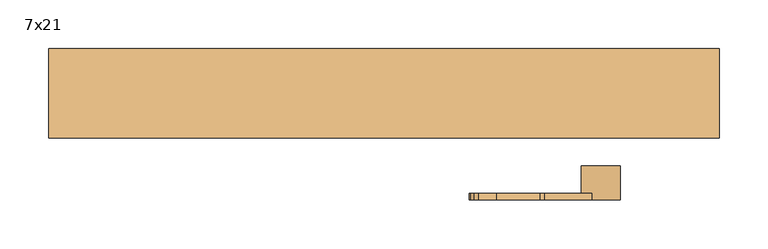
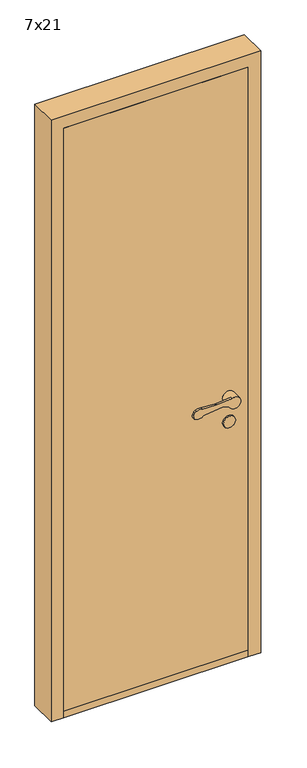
"""IFC4 building model written with IfcOpenShell, lengths in millimetres: door geometry, Innerdør Slett (Diplomat) : 7x21."""

from ifc_helpers import new_model, si_unit, point, frame, frame_2d, origin, origin_with_axes, place, context, project, spatial, polyline, circle_curve, trimmed, segment, composite_curve, outline, extrude, source, transform, mapped, element, save
from ifc_brep_helpers import plane_surface, cylinder_surface, revolved_surface, advanced_brep


def door_7x21_1ed85bad(model_context):
    return source(origin(), model_context, "Body", "SolidModel", [
        advanced_brep(
        [(243.9611305, 49.0, 949.1175955), (238.8520664, 49.0, 949.9496913), (176.0476109, 49.0, 943.6260011), (146.721536, 49.0, 938.7393398), (141.8691983, 49.0, 951.8913379), (145.505009, 49.0, 959.9624074), (150.3175669, 49.0, 964.8810513), (168.8963175, 49.0, 967.2639242), (213.6202158, 49.0, 964.1804415), (218.6891233, 49.0, 964.26032), (267.2687793, 49.0, 969.1517356), (296.379633, 49.0, 951.3474568), (258.3841161, 49.0, 942.6204086), (218.6891233, 41.8915284, 964.26032), (213.6202158, 41.8915284, 964.1804415), (168.8963175, 41.8915284, 967.2639242), (150.3175669, 41.8915284, 964.8810513), (145.505009, 41.8915284, 959.9624074), (141.8691983, 41.8915284, 951.8913379), (146.721536, 41.8915284, 938.7393398), (176.0476109, 41.8915284, 943.6260011), (238.8520664, 41.8915284, 949.9496913), (243.9611305, 41.8915284, 949.1175955), (258.3841161, 41.8915284, 942.6204086), (256.379633, 41.8915284, 951.3474568), (267.2687793, 41.8915284, 969.1517356), (296.379633, 14.0, 951.3474568), (256.379633, 14.0, 951.3474568)],
        [
            (0, 1, circle_curve(frame((239.8538865, 49.0, 940.0), z_axis=(0.0, -1.0, 0.0), x_axis=(-0.9949691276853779, 0.0, -0.10018200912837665)), 10.0)),
            (1, 2),
            (2, 3, circle_curve(frame((157.8569644, 49.0, 962.352734), z_axis=(0.0, 1.0, 0.0), x_axis=(-0.9949691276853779, 0.0, -0.10018200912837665)), 26.1072815)),
            (3, 4, circle_curve(frame((150.9867937, 49.0, 947.7840939), z_axis=(0.0, 1.0, 0.0), x_axis=(-0.9949691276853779, 0.0, -0.10018200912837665)), 10.0)),
            (4, 5),
            (5, 6, circle_curve(frame((154.6226045, 49.0, 955.8551634), z_axis=(0.0, 1.0, 0.0), x_axis=(-0.9949691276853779, 0.0, -0.10018200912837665)), 10.0)),
            (6, 7, circle_curve(frame((163.2326797, 49.0, 937.8033877), z_axis=(0.0, 1.0, 0.0), x_axis=(-0.9949691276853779, 0.0, -0.10018200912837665)), 30.0)),
            (7, 8),
            (8, 9, circle_curve(frame((215.683663, 49.0, 994.1093938), z_axis=(0.0, -1.0, 0.0), x_axis=(-0.9949691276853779, 0.0, -0.10018200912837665)), 30.0)),
            (9, 10),
            (10, 11, circle_curve(frame((276.379633, 49.0, 951.3474568), z_axis=(0.0, 1.0, 0.0), x_axis=(-1.0, 0.0, 0.0)), 20.0)),
            (11, 12, circle_curve(frame((276.379633, 49.0, 951.3474568), z_axis=(0.0, 1.0, 0.0), x_axis=(-1.0, 0.0, 0.0)), 20.0)),
            (12, 0),
            (13, 14, circle_curve(frame((215.683663, 41.8915284, 994.1093938), z_axis=(0.0, 1.0, 0.0), x_axis=(-0.9949691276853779, 0.0, -0.10018200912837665)), 30.0)),
            (14, 15),
            (15, 16, circle_curve(frame((163.2326797, 41.8915284, 937.8033877), z_axis=(0.0, -1.0, 0.0), x_axis=(-0.9949691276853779, 0.0, -0.10018200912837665)), 30.0)),
            (16, 17, circle_curve(frame((154.6226045, 41.8915284, 955.8551634), z_axis=(0.0, -1.0, 0.0), x_axis=(-0.9949691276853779, 0.0, -0.10018200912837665)), 10.0)),
            (17, 18),
            (18, 19, circle_curve(frame((150.9867937, 41.8915284, 947.7840939), z_axis=(0.0, -1.0, 0.0), x_axis=(-0.9949691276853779, 0.0, -0.10018200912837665)), 10.0)),
            (19, 20, circle_curve(frame((157.8569644, 41.8915284, 962.352734), z_axis=(0.0, -1.0, 0.0), x_axis=(-0.9949691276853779, 0.0, -0.10018200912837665)), 26.1072815)),
            (20, 21),
            (21, 22, circle_curve(frame((239.8538865, 41.8915284, 940.0), z_axis=(0.0, 1.0, 0.0), x_axis=(-0.9949691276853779, 0.0, -0.10018200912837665)), 10.0)),
            (22, 23),
            (23, 24, circle_curve(frame((276.379633, 41.8915284, 951.3474568), z_axis=(0.0, 1.0, 0.0), x_axis=(-1.0, 0.0, 0.0)), 20.0)),
            (24, 25, circle_curve(frame((276.379633, 41.8915284, 951.3474568), z_axis=(0.0, 1.0, 0.0), x_axis=(-1.0, 0.0, 0.0)), 20.0)),
            (25, 13),
            (9, 13),
            (25, 10),
            (22, 0),
            (12, 23),
            (21, 1),
            (20, 2),
            (19, 3),
            (18, 4),
            (17, 5),
            (16, 6),
            (15, 7),
            (14, 8),
            (26, 27, circle_curve(frame((276.379633, 14.0, 951.3474568), z_axis=(0.0, -1.0, 0.0), x_axis=(-1.0, 0.0, 0.0)), 20.0)),
            (27, 26, circle_curve(frame((276.379633, 14.0, 951.3474568), z_axis=(0.0, -1.0, 0.0), x_axis=(-1.0, 0.0, 0.0)), 20.0)),
            (27, 24),
            (11, 26),
        ],
        [
            plane_surface(frame((267.6960588, 49.0, 969.1947577), z_axis=(0.0, 1.0000000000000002, 0.0), x_axis=(0.9949691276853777, 0.0, 0.10018200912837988))),
            plane_surface(frame((267.6960588, 41.8915284, 969.1947577), z_axis=(0.0, -1.0000000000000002, 0.0), x_axis=(-0.9949691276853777, 0.0, -0.10018200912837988))),
            plane_surface(frame((218.6891233, 49.0, 964.26032), z_axis=(-0.10018200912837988, 0.0, 0.9949691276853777), x_axis=(0.0, -1.0, 0.0))),
            plane_surface(frame((276.9687366, 49.0, 934.2485115), z_axis=(-0.41072439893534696, 0.0, -0.91175954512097), x_axis=(0.0, -1.0, 0.0))),
            revolved_surface(polyline([(229.90419522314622, 41.8915284, 938.9981799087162), (229.90419522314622, 49.0, 938.9981799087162)]), (239.8538865, 41.8915284, 940.0), (0.0, -1.0, 0.0)),
            plane_surface(frame((238.8520664, 49.0, 949.9496913), z_axis=(0.10018200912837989, 0.0, -0.9949691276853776), x_axis=(0.0, -1.0, 0.0))),
            cylinder_surface(frame((157.8569644, 41.8915284, 962.352734), z_axis=(0.0, 1.0, 0.0), x_axis=(-0.9949691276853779, 0.0, -0.10018200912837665)), 26.1072815),
            cylinder_surface(frame((150.9867937, 41.8915284, 947.7840939), z_axis=(0.0, 1.0, 0.0), x_axis=(-0.9949691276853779, 0.0, -0.10018200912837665)), 10.0),
            plane_surface(frame((141.8691983, 49.0, 951.8913379), z_axis=(-0.9117595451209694, 0.0, 0.41072439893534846), x_axis=(0.0, -1.0, 0.0))),
            cylinder_surface(frame((154.6226045, 41.8915284, 955.8551634), z_axis=(0.0, 1.0, 0.0), x_axis=(-0.9949691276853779, 0.0, -0.10018200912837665)), 10.0),
            cylinder_surface(frame((163.2326797, 41.8915284, 937.8033877), z_axis=(0.0, 1.0, 0.0), x_axis=(-0.9949691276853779, 0.0, -0.10018200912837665)), 30.0),
            plane_surface(frame((168.8963175, 49.0, 967.2639242), z_axis=(0.06878157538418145, 0.0, 0.9976317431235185), x_axis=(0.0, -1.0, 0.0))),
            revolved_surface(polyline([(185.83458916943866, 41.8915284, 991.1039335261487), (185.83458916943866, 49.0, 991.1039335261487)]), (215.683663, 41.8915284, 994.1093938), (0.0, -1.0, 0.0)),
            plane_surface(frame((256.379633, 14.0, 951.3474568), z_axis=(0.0, -1.0, 0.0), x_axis=(0.0, 0.0, -1.0))),
            cylinder_surface(frame((276.379633, 14.0, 951.3474568), z_axis=(0.0, 1.0, 0.0), x_axis=(-1.0, 0.0, 0.0)), 20.0),
        ],
        [
            (0, [[1, 2, 3, 4, 5, 6, 7, 8, 9, 10, 11, 12, 13]]),
            (1, [[14, 15, 16, 17, 18, 19, 20, 21, 22, 23, 24, 25, 26]]),
            (2, [[27, -26, 28, -10]]),
            (3, [[29, -13, 30, -23]]),
            (4, [[-1, -29, -22, 31]]),
            (5, [[-2, -31, -21, 32]]),
            (6, [[-3, -32, -20, 33]]),
            (7, [[-4, -33, -19, 34]]),
            (8, [[-5, -34, -18, 35]]),
            (9, [[-6, -35, -17, 36]]),
            (10, [[-7, -36, -16, 37]]),
            (11, [[-8, -37, -15, 38]]),
            (12, [[-9, -38, -14, -27]]),
            (13, [[39, 40]]),
            (14, [[-40, 41, -24, -30, -12, 42]]),
            (14, [[-39, -42, -11, -28, -25, -41]]),
        ],
    ),
        extrude(outline(composite_curve([segment(trimmed(circle_curve(frame_2d((866.3474568, 276.379633)), 20.0), [point((866.3474568, 296.379633))], [point((866.3474568, 256.379633))], False, "CARTESIAN"), True, "CONTINUOUS"), segment(trimmed(circle_curve(frame_2d((866.3474568, 276.379633)), 20.0), [point((866.3474568, 256.379633))], [point((866.3474568, 296.379633))], False, "CARTESIAN"), True, "CONTINUOUS")], self_intersect=False)), frame((0.0, 14.0, 0.0), z_axis=(0.0, 1.0, 0.0), x_axis=(0.0, 0.0, 1.0)), (0.0, 0.0, 1.0), 5.0),
        advanced_brep(
        [(243.9611305, -100.0, 949.1175955), (258.3841161, -100.0, 942.6204086), (296.379633, -100.0, 951.3474568), (267.2687793, -100.0, 969.1517356), (218.6891233, -100.0, 964.26032), (213.6202158, -100.0, 964.1804415), (168.8963175, -100.0, 967.2639242), (150.3175669, -100.0, 964.8810513), (145.505009, -100.0, 959.9624074), (141.8691983, -100.0, 951.8913379), (146.721536, -100.0, 938.7393398), (176.0476109, -100.0, 943.6260011), (238.8520664, -100.0, 949.9496913), (218.6891233, -92.8915284, 964.26032), (267.2687793, -92.8915284, 969.1517356), (256.379633, -92.8915284, 951.3474568), (258.3841161, -92.8915284, 942.6204086), (243.9611305, -92.8915284, 949.1175955), (238.8520664, -92.8915284, 949.9496913), (176.0476109, -92.8915284, 943.6260011), (146.721536, -92.8915284, 938.7393398), (141.8691983, -92.8915284, 951.8913379), (145.505009, -92.8915284, 959.9624074), (150.3175669, -92.8915284, 964.8810513), (168.8963175, -92.8915284, 967.2639242), (213.6202158, -92.8915284, 964.1804415), (296.379633, -65.0, 951.3474568), (256.379633, -65.0, 951.3474568)],
        [
            (0, 1),
            (1, 2, circle_curve(frame((276.379633, -100.0, 951.3474568), z_axis=(0.0, -1.0, 0.0), x_axis=(-1.0, 0.0, 0.0)), 20.0)),
            (2, 3, circle_curve(frame((276.379633, -100.0, 951.3474568), z_axis=(0.0, -1.0, 0.0), x_axis=(-1.0, 0.0, 0.0)), 20.0)),
            (3, 4),
            (4, 5, circle_curve(frame((215.683663, -100.0, 994.1093938), z_axis=(0.0, 1.0, 0.0), x_axis=(-0.9949691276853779, 0.0, -0.10018200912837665)), 30.0)),
            (5, 6),
            (6, 7, circle_curve(frame((163.2326797, -100.0, 937.8033877), z_axis=(0.0, -1.0, 0.0), x_axis=(-0.9949691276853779, 0.0, -0.10018200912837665)), 30.0)),
            (7, 8, circle_curve(frame((154.6226045, -100.0, 955.8551634), z_axis=(0.0, -1.0, 0.0), x_axis=(-0.9949691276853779, 0.0, -0.10018200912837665)), 10.0)),
            (8, 9),
            (9, 10, circle_curve(frame((150.9867937, -100.0, 947.7840939), z_axis=(0.0, -1.0, 0.0), x_axis=(-0.9949691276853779, 0.0, -0.10018200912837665)), 10.0)),
            (10, 11, circle_curve(frame((157.8569644, -100.0, 962.352734), z_axis=(0.0, -1.0, 0.0), x_axis=(-0.9949691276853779, 0.0, -0.10018200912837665)), 26.1072815)),
            (11, 12),
            (12, 0, circle_curve(frame((239.8538865, -100.0, 940.0), z_axis=(0.0, 1.0, 0.0), x_axis=(-0.9949691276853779, 0.0, -0.10018200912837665)), 10.0)),
            (13, 14),
            (14, 15, circle_curve(frame((276.379633, -92.8915284, 951.3474568), z_axis=(0.0, -1.0, 0.0), x_axis=(-1.0, 0.0, 0.0)), 20.0)),
            (15, 16, circle_curve(frame((276.379633, -92.8915284, 951.3474568), z_axis=(0.0, -1.0, 0.0), x_axis=(-1.0, 0.0, 0.0)), 20.0)),
            (16, 17),
            (17, 18, circle_curve(frame((239.8538865, -92.8915284, 940.0), z_axis=(0.0, -1.0, 0.0), x_axis=(-0.9949691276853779, 0.0, -0.10018200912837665)), 10.0)),
            (18, 19),
            (19, 20, circle_curve(frame((157.8569644, -92.8915284, 962.352734), z_axis=(0.0, 1.0, 0.0), x_axis=(-0.9949691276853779, 0.0, -0.10018200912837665)), 26.1072815)),
            (20, 21, circle_curve(frame((150.9867937, -92.8915284, 947.7840939), z_axis=(0.0, 1.0, 0.0), x_axis=(-0.9949691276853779, 0.0, -0.10018200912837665)), 10.0)),
            (21, 22),
            (22, 23, circle_curve(frame((154.6226045, -92.8915284, 955.8551634), z_axis=(0.0, 1.0, 0.0), x_axis=(-0.9949691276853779, 0.0, -0.10018200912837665)), 10.0)),
            (23, 24, circle_curve(frame((163.2326797, -92.8915284, 937.8033877), z_axis=(0.0, 1.0, 0.0), x_axis=(-0.9949691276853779, 0.0, -0.10018200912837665)), 30.0)),
            (24, 25),
            (25, 13, circle_curve(frame((215.683663, -92.8915284, 994.1093938), z_axis=(0.0, -1.0, 0.0), x_axis=(-0.9949691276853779, 0.0, -0.10018200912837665)), 30.0)),
            (3, 14),
            (13, 4),
            (16, 1),
            (0, 17),
            (12, 18),
            (11, 19),
            (10, 20),
            (9, 21),
            (8, 22),
            (7, 23),
            (6, 24),
            (5, 25),
            (26, 27, circle_curve(frame((276.379633, -65.0, 951.3474568), z_axis=(0.0, 1.0, 0.0), x_axis=(-1.0, 0.0, 0.0)), 20.0)),
            (27, 26, circle_curve(frame((276.379633, -65.0, 951.3474568), z_axis=(0.0, 1.0, 0.0), x_axis=(-1.0, 0.0, 0.0)), 20.0)),
            (26, 2),
            (15, 27),
        ],
        [
            plane_surface(frame((267.6960588, -100.0, 969.1947577), z_axis=(0.0, -1.0000000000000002, 0.0), x_axis=(0.9949691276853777, 0.0, 0.10018200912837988))),
            plane_surface(frame((267.6960588, -92.8915284, 969.1947577), z_axis=(0.0, 1.0000000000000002, 0.0), x_axis=(-0.9949691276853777, 0.0, -0.10018200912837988))),
            plane_surface(frame((218.6891233, -100.0, 964.26032), z_axis=(-0.10018200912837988, 0.0, 0.9949691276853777), x_axis=(0.0, 1.0, 0.0))),
            plane_surface(frame((276.9687366, -100.0, 934.2485115), z_axis=(-0.41072439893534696, 0.0, -0.91175954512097), x_axis=(0.0, 1.0, 0.0))),
            revolved_surface(polyline([(229.90419522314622, -92.8915284, 938.9981799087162), (229.90419522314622, -100.0, 938.9981799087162)]), (239.8538865, -92.8915284, 940.0), (0.0, 1.0, 0.0)),
            plane_surface(frame((238.8520664, -100.0, 949.9496913), z_axis=(0.10018200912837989, 0.0, -0.9949691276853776), x_axis=(0.0, 1.0, 0.0))),
            cylinder_surface(frame((157.8569644, -92.8915284, 962.352734), z_axis=(0.0, -1.0, 0.0), x_axis=(-0.9949691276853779, 0.0, -0.10018200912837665)), 26.1072815),
            cylinder_surface(frame((150.9867937, -92.8915284, 947.7840939), z_axis=(0.0, -1.0, 0.0), x_axis=(-0.9949691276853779, 0.0, -0.10018200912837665)), 10.0),
            plane_surface(frame((141.8691983, -100.0, 951.8913379), z_axis=(-0.9117595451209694, 0.0, 0.41072439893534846), x_axis=(0.0, 1.0, 0.0))),
            cylinder_surface(frame((154.6226045, -92.8915284, 955.8551634), z_axis=(0.0, -1.0, 0.0), x_axis=(-0.9949691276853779, 0.0, -0.10018200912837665)), 10.0),
            cylinder_surface(frame((163.2326797, -92.8915284, 937.8033877), z_axis=(0.0, -1.0, 0.0), x_axis=(-0.9949691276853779, 0.0, -0.10018200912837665)), 30.0),
            plane_surface(frame((168.8963175, -100.0, 967.2639242), z_axis=(0.06878157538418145, 0.0, 0.9976317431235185), x_axis=(0.0, 1.0, 0.0))),
            revolved_surface(polyline([(185.83458916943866, -92.8915284, 991.1039335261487), (185.83458916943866, -100.0, 991.1039335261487)]), (215.683663, -92.8915284, 994.1093938), (0.0, 1.0, 0.0)),
            plane_surface(frame((256.379633, -65.0, 951.3474568), z_axis=(0.0, 1.0, 0.0), x_axis=(0.0, 0.0, -1.0))),
            cylinder_surface(frame((276.379633, -65.0, 951.3474568), z_axis=(0.0, -1.0, 0.0), x_axis=(-1.0, 0.0, 0.0)), 20.0),
        ],
        [
            (0, [[1, 2, 3, 4, 5, 6, 7, 8, 9, 10, 11, 12, 13]]),
            (1, [[14, 15, 16, 17, 18, 19, 20, 21, 22, 23, 24, 25, 26]]),
            (2, [[-4, 27, -14, 28]]),
            (3, [[-17, 29, -1, 30]]),
            (4, [[31, -18, -30, -13]]),
            (5, [[32, -19, -31, -12]]),
            (6, [[33, -20, -32, -11]]),
            (7, [[34, -21, -33, -10]]),
            (8, [[35, -22, -34, -9]]),
            (9, [[36, -23, -35, -8]]),
            (10, [[37, -24, -36, -7]]),
            (11, [[38, -25, -37, -6]]),
            (12, [[-28, -26, -38, -5]]),
            (13, [[39, 40]]),
            (14, [[41, -2, -29, -16, 42, -39]]),
            (14, [[-42, -15, -27, -3, -41, -40]]),
        ],
    ),
        extrude(outline(composite_curve([segment(trimmed(circle_curve(frame_2d((866.3474568, 276.379633)), 20.0), [point((866.3474568, 296.379633))], [point((866.3474568, 256.379633))], False, "CARTESIAN"), True, "CONTINUOUS"), segment(trimmed(circle_curve(frame_2d((866.3474568, 276.379633)), 20.0), [point((866.3474568, 256.379633))], [point((866.3474568, 296.379633))], False, "CARTESIAN"), True, "CONTINUOUS")], self_intersect=False)), frame((0.0, -70.0, 0.0), z_axis=(0.0, 1.0, 0.0), x_axis=(0.0, 0.0, 1.0)), (0.0, 0.0, 1.0), 5.0),
        extrude(outline(polyline([(356.379633, 56.0), (356.379633, -36.0), (-249.620367, -36.0), (-249.620367, 56.0), (356.379633, 56.0)])), origin_with_axes(), (0.0, 0.0, 1.0), 22.0),
        extrude(outline(polyline([(356.379633, 14.0), (356.379633, -36.0), (-249.620367, -36.0), (-249.620367, 14.0), (356.379633, 14.0)])), frame((0.0, 0.0, 22.0), z_axis=(0.0, 0.0, 1.0), x_axis=(1.0, 0.0, 0.0)), (0.0, 0.0, 1.0), 2031.0),
        extrude(outline(polyline([(0.0, -249.620367), (2053.0, -249.620367), (2053.0, 356.379633), (0.0, 356.379633), (0.0, 398.379633), (2095.0, 398.379633), (2095.0, -291.620367), (0.0, -291.620367), (0.0, -249.620367)])), frame((0.0, -36.0, 0.0), z_axis=(0.0, 1.0, 0.0), x_axis=(0.0, 0.0, 1.0)), (0.0, 0.0, 1.0), 92.0),
    ])


if __name__ == "__main__":
    model = new_model("IFC4")
    model_context = context("Model", 3, world=origin())
    ifc_project = project(units=[si_unit("LENGTHUNIT", "METRE", prefix="MILLI")], contexts=[model_context])
    site = spatial("IfcSite", under=ifc_project)
    building = spatial("IfcBuilding", under=site)
    placement = place(None, origin())
    door_7x21_shape = door_7x21_1ed85bad(model_context)
    element("IfcDoor", 1, ObjectType="Innerdør Slett (Diplomat) : 7x21", at=placement, inside=building, context=model_context, shape_type="MappedRepresentation", body=[
        mapped(door_7x21_shape, transform((0.0, 0.0, 0.0), x_axis=(1.0, 0.0, 0.0), y_axis=(0.0, 1.0, 0.0), z_axis=(0.0, 0.0, 1.0))),
    ])
    save(model, "model.ifc")
